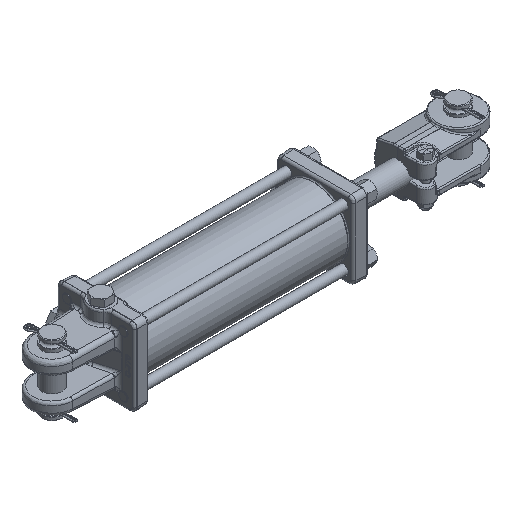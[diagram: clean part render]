
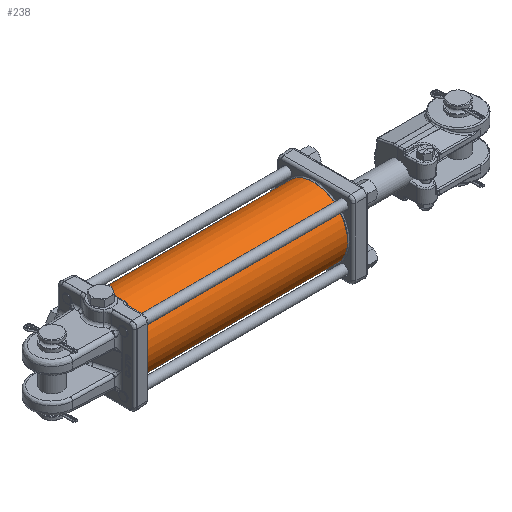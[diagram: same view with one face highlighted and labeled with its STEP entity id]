
A CAD part, isometric view. The second image highlights one B-rep face of the part: STEP entity #238.
In plain terms, the highlighted cylindrical face has radius 42.862 mm (diameter 85.725 mm), a full revolution.
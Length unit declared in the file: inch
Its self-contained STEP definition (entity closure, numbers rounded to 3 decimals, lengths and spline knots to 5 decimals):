
#124=CARTESIAN_POINT('',(0.,1.6875,0.0));
#125=VERTEX_POINT('',#124);
#126=CARTESIAN_POINT('',(0.,0.0,0.0));
#127=DIRECTION('',(1.0,0.0,0.0));
#128=DIRECTION('',(0.0,1.0,0.0));
#129=AXIS2_PLACEMENT_3D('',#126,#127,#128);
#130=CIRCLE('',#129,1.6875);
#131=EDGE_CURVE('',#125,#125,#130,.T.);
#212=CARTESIAN_POINT('',(-10.0625,1.6875,0.0));
#213=VERTEX_POINT('',#212);
#214=CARTESIAN_POINT('',(-10.0625,0.0,0.0));
#215=DIRECTION('',(1.0,0.0,0.0));
#216=DIRECTION('',(0.0,1.0,0.0));
#217=AXIS2_PLACEMENT_3D('',#214,#215,#216);
#218=CIRCLE('',#217,1.6875);
#219=EDGE_CURVE('',#213,#213,#218,.T.);
#227=CARTESIAN_POINT('',(-5.03125,0.0,0.0));
#228=DIRECTION('',(1.0,0.0,0.0));
#229=DIRECTION('',(0.0,1.0,0.0));
#230=AXIS2_PLACEMENT_3D('',#227,#228,#229);
#231=CYLINDRICAL_SURFACE('',#230,1.6875);
#232=ORIENTED_EDGE('',*,*,#131,.F.);
#233=EDGE_LOOP('',(#232));
#234=FACE_OUTER_BOUND('',#233,.T.);
#235=ORIENTED_EDGE('',*,*,#219,.T.);
#236=EDGE_LOOP('',(#235));
#237=FACE_BOUND('',#236,.T.);
#238=ADVANCED_FACE('',(#234,#237),#231,.T.);
